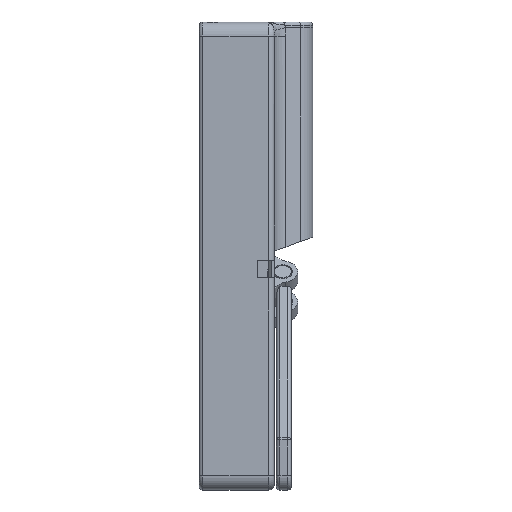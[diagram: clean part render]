
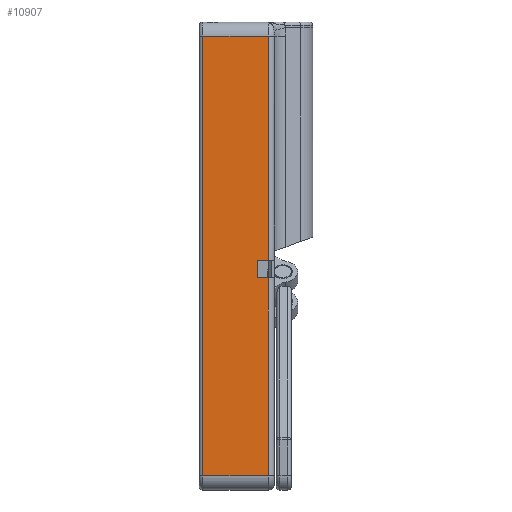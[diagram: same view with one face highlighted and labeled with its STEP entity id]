
A CAD part, left-side view. The second image highlights one B-rep face of the part: STEP entity #10907.
In plain terms, the highlighted planar face has unit normal (-1, 0, 0).
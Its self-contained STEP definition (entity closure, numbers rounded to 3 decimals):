
#3021=DIRECTION('',(0.,0.,-1.));
#3022=VECTOR('',#3021,69.8);
#3023=CARTESIAN_POINT('',(-57.5,2.,-7.7));
#3024=LINE('',#3023,#3022);
#3025=DIRECTION('',(0.,1.,0.));
#3026=VECTOR('',#3025,23.2);
#3027=CARTESIAN_POINT('',(-57.5,2.,-77.5));
#3028=LINE('',#3027,#3026);
#3029=DIRECTION('',(0.,0.,1.));
#3030=VECTOR('',#3029,155.);
#3031=CARTESIAN_POINT('',(-57.5,25.2,-77.5));
#3032=LINE('',#3031,#3030);
#3033=DIRECTION('',(0.,0.,-1.));
#3034=VECTOR('',#3033,79.2);
#3035=CARTESIAN_POINT('',(-57.5,2.,77.5));
#3036=LINE('',#3035,#3034);
#3037=DIRECTION('',(0.,1.,0.));
#3038=VECTOR('',#3037,4.);
#3039=CARTESIAN_POINT('',(-57.5,2.,-1.7));
#3040=LINE('',#3039,#3038);
#3041=DIRECTION('',(0.,0.,1.));
#3042=VECTOR('',#3041,6.);
#3043=CARTESIAN_POINT('',(-57.5,6.,-7.7));
#3044=LINE('',#3043,#3042);
#3045=DIRECTION('',(0.,1.,0.));
#3046=VECTOR('',#3045,4.);
#3047=CARTESIAN_POINT('',(-57.5,2.,-7.7));
#3048=LINE('',#3047,#3046);
#4979=DIRECTION('',(0.,1.,0.));
#4980=VECTOR('',#4979,23.2);
#4981=CARTESIAN_POINT('',(-57.5,2.,77.5));
#4982=LINE('',#4981,#4980);
#6165=CARTESIAN_POINT('',(-57.5,6.,-7.7));
#6166=CARTESIAN_POINT('',(-57.5,6.,-1.7));
#6167=VERTEX_POINT('',#6165);
#6168=VERTEX_POINT('',#6166);
#6243=CARTESIAN_POINT('',(-57.5,2.,-77.5));
#6244=VERTEX_POINT('',#6243);
#6245=CARTESIAN_POINT('',(-57.5,2.,-7.7));
#6247=VERTEX_POINT('',#6245);
#6250=CARTESIAN_POINT('',(-57.5,2.,-1.7));
#6252=VERTEX_POINT('',#6250);
#6253=CARTESIAN_POINT('',(-57.5,2.,77.5));
#6254=VERTEX_POINT('',#6253);
#6279=CARTESIAN_POINT('',(-57.5,25.2,77.5));
#6281=VERTEX_POINT('',#6279);
#6305=CARTESIAN_POINT('',(-57.5,25.2,-77.5));
#6306=VERTEX_POINT('',#6305);
#10885=CARTESIAN_POINT('',(-57.5,0.,-82.5));
#10886=DIRECTION('',(-1.,0.,0.));
#10887=DIRECTION('',(0.,0.,1.));
#10888=AXIS2_PLACEMENT_3D('',#10885,#10886,#10887);
#10889=PLANE('',#10888);
#10891=ORIENTED_EDGE('',*,*,#10890,.T.);
#10893=ORIENTED_EDGE('',*,*,#10892,.T.);
#10894=ORIENTED_EDGE('',*,*,#10879,.T.);
#10896=ORIENTED_EDGE('',*,*,#10895,.F.);
#10898=ORIENTED_EDGE('',*,*,#10897,.T.);
#10900=ORIENTED_EDGE('',*,*,#10899,.T.);
#10902=ORIENTED_EDGE('',*,*,#10901,.F.);
#10904=ORIENTED_EDGE('',*,*,#10903,.F.);
#10905=EDGE_LOOP('',(#10891,#10893,#10894,#10896,#10898,#10900,#10902,#10904));
#10906=FACE_OUTER_BOUND('',#10905,.F.);
#10907=ADVANCED_FACE('',(#10906),#10889,.T.);
#10879=EDGE_CURVE('',#6306,#6281,#3032,.T.);
#10890=EDGE_CURVE('',#6247,#6244,#3024,.T.);
#10892=EDGE_CURVE('',#6244,#6306,#3028,.T.);
#10895=EDGE_CURVE('',#6254,#6281,#4982,.T.);
#10897=EDGE_CURVE('',#6254,#6252,#3036,.T.);
#10899=EDGE_CURVE('',#6252,#6168,#3040,.T.);
#10901=EDGE_CURVE('',#6167,#6168,#3044,.T.);
#10903=EDGE_CURVE('',#6247,#6167,#3048,.T.);
